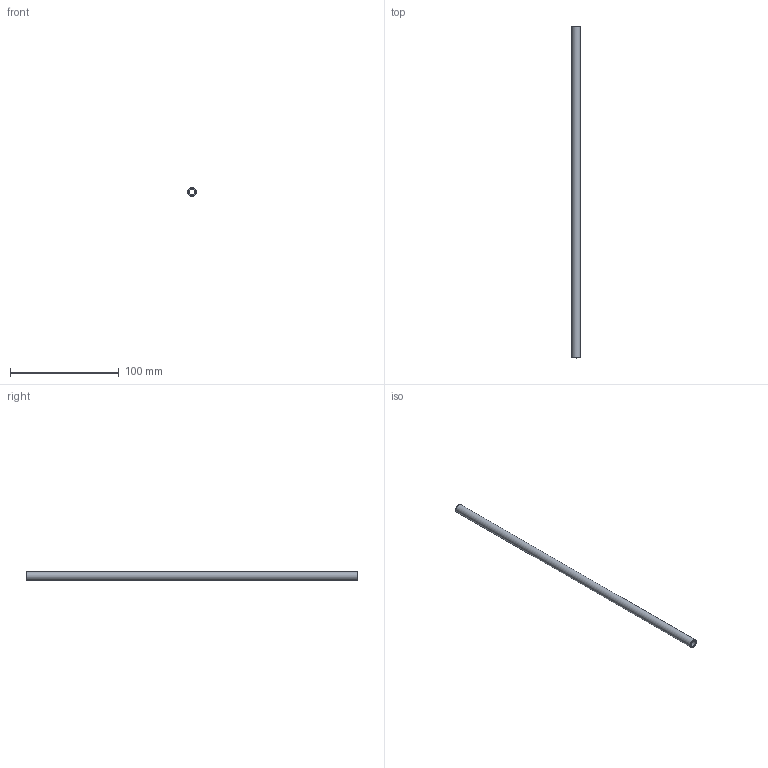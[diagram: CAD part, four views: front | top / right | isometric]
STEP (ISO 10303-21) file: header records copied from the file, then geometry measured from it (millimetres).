
FILE_DESCRIPTION(/* description */ (''),/* implementation_level */ '2;1');
FILE_NAME(/* name */ 'C:/Users/drich/Desktop/312T-12 v1.step',/* time_stamp */ '2019-12-27T17:30:08-06:00',/* author */ (''),/* organization */ (''),/* preprocessor_version */ 'ST-DEVELOPER v18',/* originating_system */ 'Autodesk Translation Framework v8.12.0.6',/* authorisation */ '');
FILE_SCHEMA (('AUTOMOTIVE_DESIGN { 1 0 10303 214 3 1 1 }'));
Length unit declared in the file: inch
Products named in the file (1): 312T-12
Bounding box: 7.82 x 304.8 x 7.82 mm (x, y, z)
Volume: 7819.7 mm3; surface area: 12637.8 mm2
Topology: 1 solids, 1 shells, 6 faces, 14 edges, 10 vertices
Faces by surface type: cone 2, cylinder 2, plane 2
Full cylindrical faces by diameter (mm): 5.334 x1, 7.818 x1
Entity records: 230 total; most frequent: DIRECTION 38, CARTESIAN_POINT 31, ORIENTED_EDGE 28, AXIS2_PLACEMENT_3D 17, EDGE_CURVE 14, CIRCLE 10, VERTEX_POINT 10, EDGE_LOOP 8
